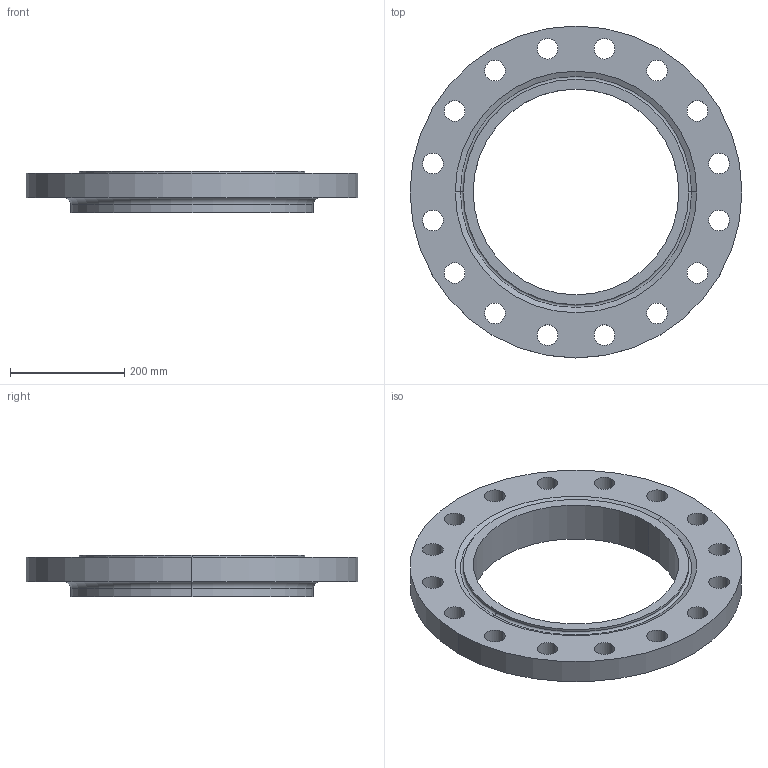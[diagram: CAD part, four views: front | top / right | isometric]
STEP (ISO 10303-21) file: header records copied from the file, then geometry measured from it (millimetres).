
FILE_DESCRIPTION (( 'STEP AP214' ), '1' );
FILE_NAME ('PN40 DN350 Type 12 - Type H Face.STEP', '2019-01-05T21:49:43', ( '' ), ( '' ), 'SwSTEP 2.0', 'SolidWorks 2019', '' );
FILE_SCHEMA (( 'AUTOMOTIVE_DESIGN' ));
Length unit declared in the file: millimetre
Products named in the file (1): PN40 DN350 Type 12 - Type H Face
Bounding box: 580 x 580 x 72 mm (x, y, z)
Volume: 7375919.6 mm3; surface area: 567735.2 mm2
Topology: 1 solids, 1 shells, 50 faces, 132 edges, 86 vertices
Faces by surface type: cylinder 40, torus 4, plane 4, cone 2
Entity records: 1700 total; most frequent: DIRECTION 324, CARTESIAN_POINT 269, ORIENTED_EDGE 264, AXIS2_PLACEMENT_3D 141, EDGE_CURVE 132, CIRCLE 90, VERTEX_POINT 86, EDGE_LOOP 86
